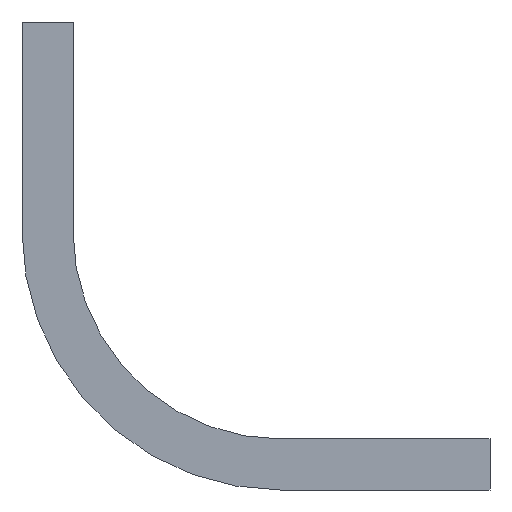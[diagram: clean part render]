
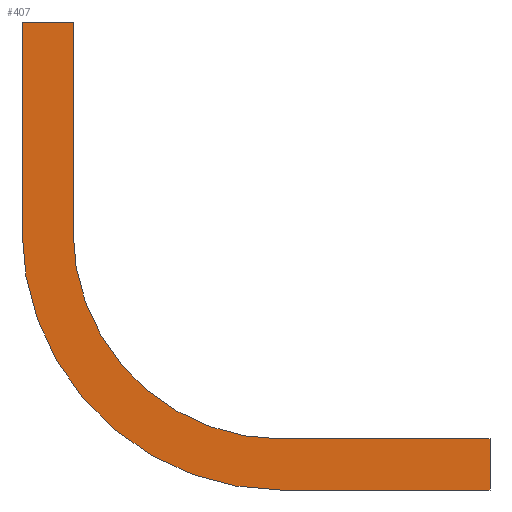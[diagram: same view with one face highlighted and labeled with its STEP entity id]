
A CAD part, left-side view. The second image highlights one B-rep face of the part: STEP entity #407.
In plain terms, the highlighted planar face has unit normal (-1, 0, 0).
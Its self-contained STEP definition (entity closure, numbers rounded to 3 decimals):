
#28 = VECTOR ( 'NONE', #725, 1000. ) ;
#41 = CARTESIAN_POINT ( 'NONE',  ( -28.5, -20., -82. ) ) ;
#49 = VERTEX_POINT ( 'NONE', #472 ) ;
#54 = CARTESIAN_POINT ( 'NONE',  ( -28.5, 0., 0. ) ) ;
#69 = AXIS2_PLACEMENT_3D ( 'NONE', #460, #739, #143 ) ;
#93 = ORIENTED_EDGE ( 'NONE', *, *, #701, .F. ) ;
#110 = CARTESIAN_POINT ( 'NONE',  ( -28.5, -101.5, -183.5 ) ) ;
#113 = VERTEX_POINT ( 'NONE', #642 ) ;
#118 = EDGE_CURVE ( 'NONE', #542, #348, #840, .T. ) ;
#143 = DIRECTION ( 'NONE',  ( 0., 0., 1. ) ) ;
#152 = FACE_OUTER_BOUND ( 'NONE', #409, .T. ) ;
#157 = DIRECTION ( 'NONE',  ( 0., 0., -1. ) ) ;
#161 = CARTESIAN_POINT ( 'NONE',  ( -28.5, -20., 0. ) ) ;
#167 = DIRECTION ( 'NONE',  ( 0., -1., 0. ) ) ;
#190 = VECTOR ( 'NONE', #157, 1000. ) ;
#201 = VECTOR ( 'NONE', #491, 1000. ) ;
#225 = LINE ( 'NONE', #419, #416 ) ;
#240 = VERTEX_POINT ( 'NONE', #645 ) ;
#246 = EDGE_CURVE ( 'NONE', #493, #113, #299, .T. ) ;
#251 = ORIENTED_EDGE ( 'NONE', *, *, #600, .F. ) ;
#271 = LINE ( 'NONE', #161, #841 ) ;
#295 = ORIENTED_EDGE ( 'NONE', *, *, #488, .F. ) ;
#299 = LINE ( 'NONE', #54, #28 ) ;
#341 = DIRECTION ( 'NONE',  ( -1., 0., 0. ) ) ;
#348 = VERTEX_POINT ( 'NONE', #394 ) ;
#394 = CARTESIAN_POINT ( 'NONE',  ( -28.5, -20., -82. ) ) ;
#407 = ADVANCED_FACE ( 'NONE', ( #152 ), #537, .T. ) ;
#409 = EDGE_LOOP ( 'NONE', ( #820, #508, #251, #751, #295, #613, #93, #525 ) ) ;
#416 = VECTOR ( 'NONE', #428, 1000. ) ;
#419 = CARTESIAN_POINT ( 'NONE',  ( -28.5, -183.5, -163.5 ) ) ;
#426 = CARTESIAN_POINT ( 'NONE',  ( -28.5, 0., -82. ) ) ;
#428 = DIRECTION ( 'NONE',  ( 0., -1., 0. ) ) ;
#448 = AXIS2_PLACEMENT_3D ( 'NONE', #562, #636, #765 ) ;
#449 = DIRECTION ( 'NONE',  ( 0., 1., 0. ) ) ;
#460 = CARTESIAN_POINT ( 'NONE',  ( -28.5, -101.5, -82. ) ) ;
#465 = CARTESIAN_POINT ( 'NONE',  ( -28.5, -101.5, -183.5 ) ) ;
#472 = CARTESIAN_POINT ( 'NONE',  ( -28.5, -183.5, -163.5 ) ) ;
#481 = DIRECTION ( 'NONE',  ( 0., 0., -1. ) ) ;
#488 = EDGE_CURVE ( 'NONE', #49, #240, #753, .T. ) ;
#491 = DIRECTION ( 'NONE',  ( 0., 0., -1. ) ) ;
#493 = VERTEX_POINT ( 'NONE', #426 ) ;
#504 = LINE ( 'NONE', #110, #811 ) ;
#507 = AXIS2_PLACEMENT_3D ( 'NONE', #756, #341, #481 ) ;
#508 = ORIENTED_EDGE ( 'NONE', *, *, #246, .F. ) ;
#525 = ORIENTED_EDGE ( 'NONE', *, *, #118, .F. ) ;
#527 = CARTESIAN_POINT ( 'NONE',  ( -28.5, -20., 0. ) ) ;
#537 = PLANE ( 'NONE',  #448 ) ;
#542 = VERTEX_POINT ( 'NONE', #527 ) ;
#553 = CIRCLE ( 'NONE', #507, 81.5 ) ;
#555 = CARTESIAN_POINT ( 'NONE',  ( -28.5, -101.5, -163.5 ) ) ;
#562 = CARTESIAN_POINT ( 'NONE',  ( -28.5, -101.5, -82. ) ) ;
#600 = EDGE_CURVE ( 'NONE', #646, #493, #672, .T. ) ;
#613 = ORIENTED_EDGE ( 'NONE', *, *, #836, .F. ) ;
#627 = CARTESIAN_POINT ( 'NONE',  ( -28.5, -183.5, -183.5 ) ) ;
#636 = DIRECTION ( 'NONE',  ( -1., 0., 0. ) ) ;
#642 = CARTESIAN_POINT ( 'NONE',  ( -28.5, 0., 0. ) ) ;
#645 = CARTESIAN_POINT ( 'NONE',  ( -28.5, -183.5, -183.5 ) ) ;
#646 = VERTEX_POINT ( 'NONE', #465 ) ;
#672 = CIRCLE ( 'NONE', #69, 101.5 ) ;
#701 = EDGE_CURVE ( 'NONE', #348, #851, #553, .T. ) ;
#725 = DIRECTION ( 'NONE',  ( 0., 0., 1. ) ) ;
#739 = DIRECTION ( 'NONE',  ( 1., 0., 0. ) ) ;
#751 = ORIENTED_EDGE ( 'NONE', *, *, #790, .F. ) ;
#753 = LINE ( 'NONE', #627, #190 ) ;
#756 = CARTESIAN_POINT ( 'NONE',  ( -28.5, -101.5, -82. ) ) ;
#765 = DIRECTION ( 'NONE',  ( 0., 0., 1. ) ) ;
#790 = EDGE_CURVE ( 'NONE', #240, #646, #504, .T. ) ;
#811 = VECTOR ( 'NONE', #449, 1000. ) ;
#820 = ORIENTED_EDGE ( 'NONE', *, *, #823, .F. ) ;
#823 = EDGE_CURVE ( 'NONE', #113, #542, #271, .T. ) ;
#836 = EDGE_CURVE ( 'NONE', #851, #49, #225, .T. ) ;
#840 = LINE ( 'NONE', #41, #201 ) ;
#841 = VECTOR ( 'NONE', #167, 1000. ) ;
#851 = VERTEX_POINT ( 'NONE', #555 ) ;
